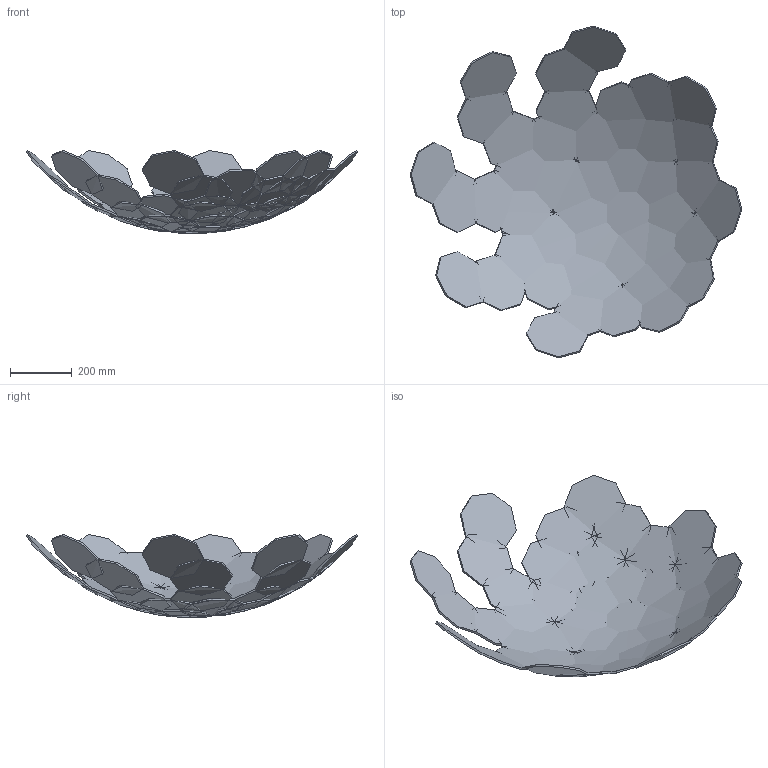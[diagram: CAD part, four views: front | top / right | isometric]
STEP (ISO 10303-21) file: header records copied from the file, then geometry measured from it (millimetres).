
FILE_DESCRIPTION(/* description */ ('STEP AP242 Edition 2','CAx-IF Rec.Pracs.---Representation and Presentation of Product Manufacturing Information (PMI)---4.0---2014-10-13','CAx-IF Rec.Pracs.---3D Tessellated Geometry---0.4---2014-09-14','2;1','CAx-IF Rec.Pracs.---User Defined Attributes---1.5---2016-08-15'),/* implementation_level */ '2;1');
FILE_NAME(/* name */ '6a04564ca074ba5562c1846f',/* time_stamp */ '2026-05-13T10:45:33Z',/* author */ (''),/* organization */ (''),/* preprocessor_version */ 'ST-DEVELOPER v20',/* originating_system */ 'ONSHAPE BY PTC INC, 1.214',/* authorisation */ ' ');
FILE_SCHEMA (('AP242_MANAGED_MODEL_BASED_3D_ENGINEERING_MIM_LF { 1 0 10303 442 3 1 4 }'));
Length unit declared in the file: metre
Products named in the file (2): Assembly 1; Single Facet
Assembly tree (58 placements, depth 2):
  Assembly 1
    Single Facet  x58
Bounding box: 1073.77 x 1073.77 x 268.81 mm (x, y, z)
Volume: 9842926.4 mm3; surface area: 3494053.6 mm2
Topology: 58 solids, 58 shells, 580 faces, 1392 edges, 928 vertices
Faces by surface type: plane 580
Entity records: 785 total; most frequent: DIRECTION 162, CARTESIAN_POINT 109, AXIS2_PLACEMENT_3D 69, PRODUCT_DEFINITION_SHAPE 60, CONTEXT_DEPENDENT_SHAPE_REPRESENTATION 58, NEXT_ASSEMBLY_USAGE_OCCURRENCE 58, ITEM_DEFINED_TRANSFORMATION 58, ORIENTED_EDGE 48
